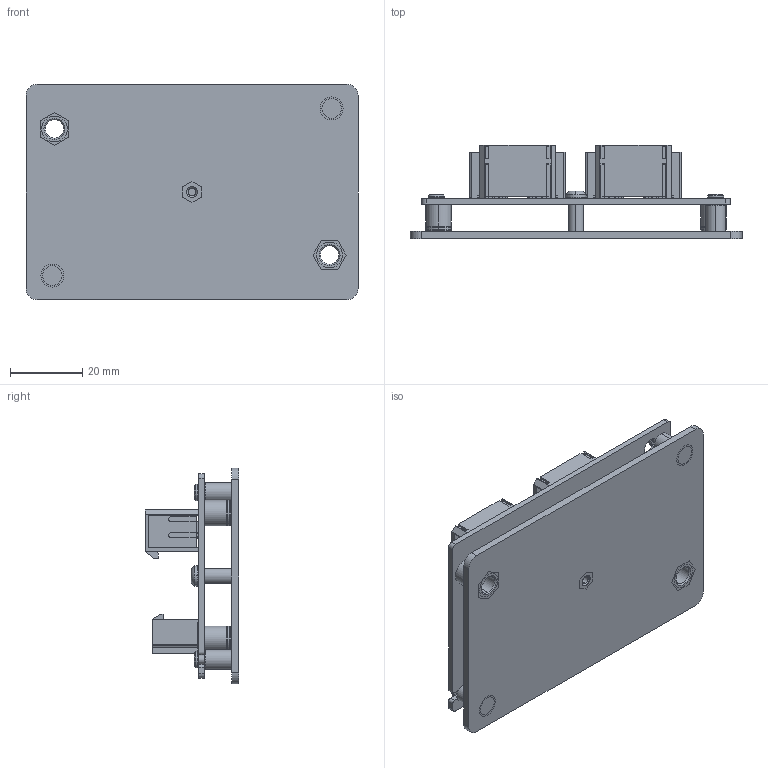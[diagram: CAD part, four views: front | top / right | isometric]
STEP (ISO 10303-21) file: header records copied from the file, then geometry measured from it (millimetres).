
FILE_DESCRIPTION (( 'STEP AP214' ), '1' );
FILE_NAME ('PWR4-STRIP-S.STEP', '2023-08-18T16:03:10', ( '' ), ( '' ), 'SwSTEP 2.0', 'SolidWorks 2020', '' );
FILE_SCHEMA (( 'AUTOMOTIVE_DESIGN' ));
Length unit declared in the file: inch
Products named in the file (1): PWR4-STRIP-S
Bounding box: 91.95 x 25.89 x 59.69 mm (x, y, z)
Volume: 26123.6 mm3; surface area: 33403.8 mm2
Topology: 8 solids, 8 shells, 1102 faces, 2971 edges, 1938 vertices
Faces by surface type: plane 865, cylinder 180, cone 48, torus 6, bspline 3
Entity records: 49591 total; most frequent: CARTESIAN_POINT 7568, ORIENTED_EDGE 5918, DIRECTION 5279, EDGE_CURVE 2959, LINE 2483, VECTOR 2483, VERTEX_POINT 1938, AXIS2_PLACEMENT_3D 1398
